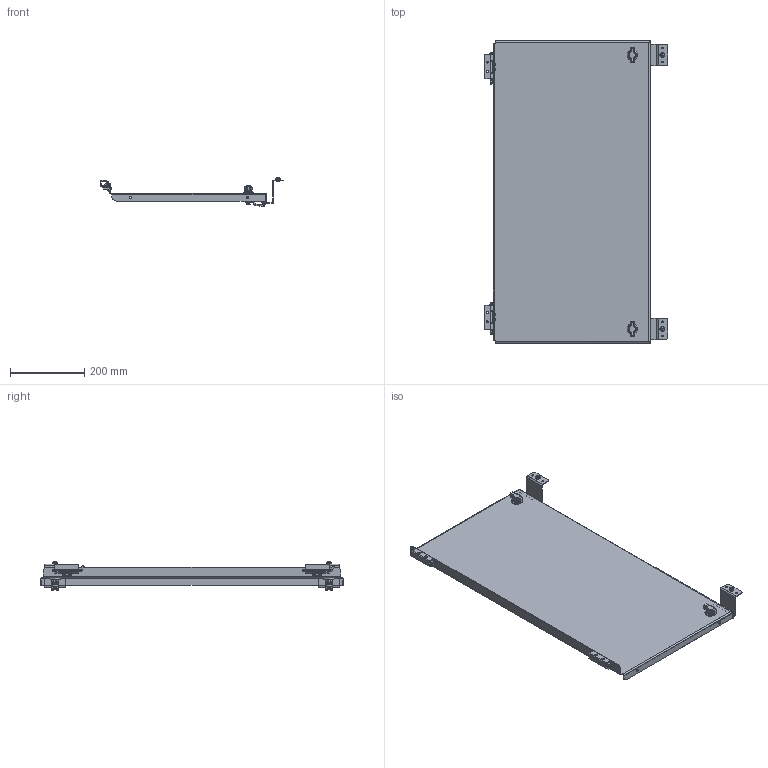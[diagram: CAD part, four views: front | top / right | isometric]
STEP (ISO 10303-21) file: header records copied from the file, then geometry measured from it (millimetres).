
FILE_DESCRIPTION((''),'2;1');
FILE_NAME('SCE-DF36EL20LP_ASM','2010-07-07T',('mikek'),(''),'PRO/ENGINEER BY PARAMETRIC TECHNOLOGY CORPORATION, 2009230','PRO/ENGINEER BY PARAMETRIC TECHNOLOGY CORPORATION, 2009230','');
FILE_SCHEMA(('CONFIG_CONTROL_DESIGN'));
Length unit declared in the file: inch
Products named in the file (23): SCE-DF36EL24LP-DF-PANEL; 114875; 100022; 114875_ASM; 101376; 101376-PIN; 101376_ASM; 101080_SHAFT; 101080_HANDLE; 101080_INSERT; 101080_NUT; 101080_SCREW; 102804_CAM_28MM; 101080_ASM; 101645; 101670; SCE-DF36EL24LP-DF-CATCH; SCE-DF36EL24LP-DF-CATCH-ASSY_ASM; 102152; 102483; 113346; 102470; SCE-DF36EL20LP_ASM
Assembly tree (37 placements, depth 3):
  SCE-DF36EL20LP_ASM
    SCE-DF36EL24LP-DF-PANEL
    114875_ASM  x2
      114875
      100022
    101376_ASM  x2
      101376
      101376-PIN
    101080_ASM  x2
      101080_SHAFT
      101080_HANDLE
      101080_INSERT
      101080_NUT
      101080_SCREW
      102804_CAM_28MM
    101645  x4
    101670  x2
    SCE-DF36EL24LP-DF-CATCH-ASSY_ASM  x2
      SCE-DF36EL24LP-DF-CATCH
      100022
    102152  x2
    102483  x2
    113346
    102470  x4
Bounding box: 494.09 x 812.8 x 78.41 mm (x, y, z)
Volume: 871280.7 mm3; surface area: 877101.6 mm2
Topology: 39 solids, 41 shells, 1750 faces, 4304 edges, 2582 vertices
Faces by surface type: plane 766, cylinder 582, bspline 178, cone 108, torus 98, sphere 18
Entity records: 29833 total; most frequent: CARTESIAN_POINT 7604, DIRECTION 4238, ORIENTED_EDGE 4022, EDGE_CURVE 2011, AXIS2_PLACEMENT_3D 1586, VERTEX_POINT 1261, VECTOR 1066, LINE 1066
